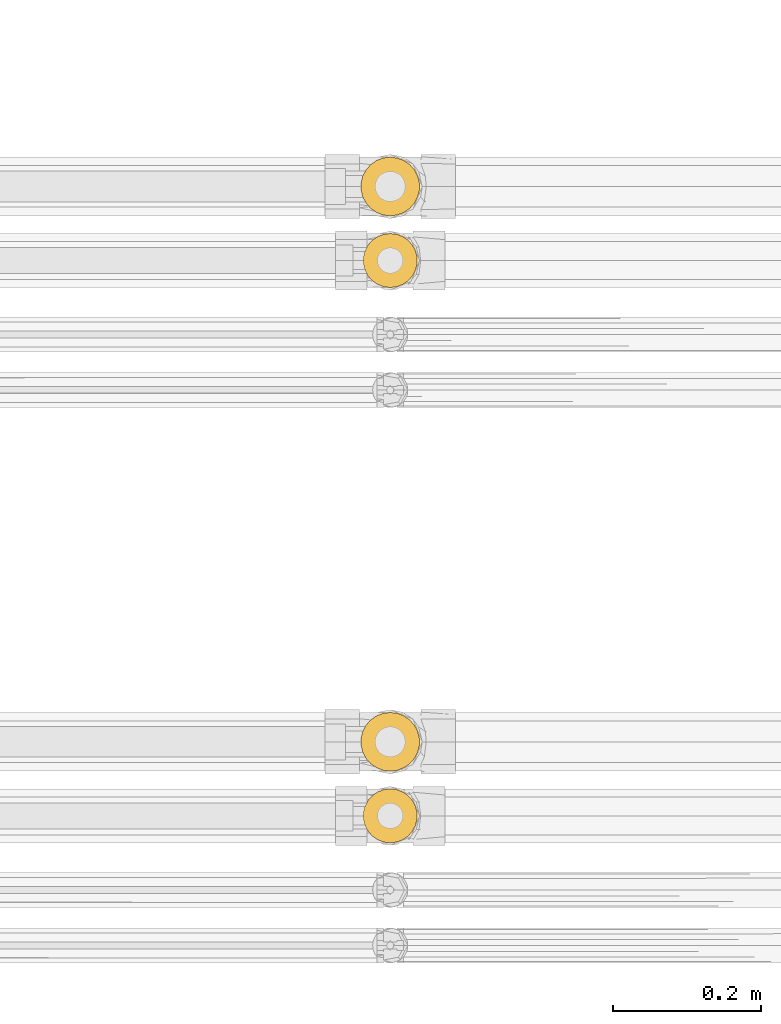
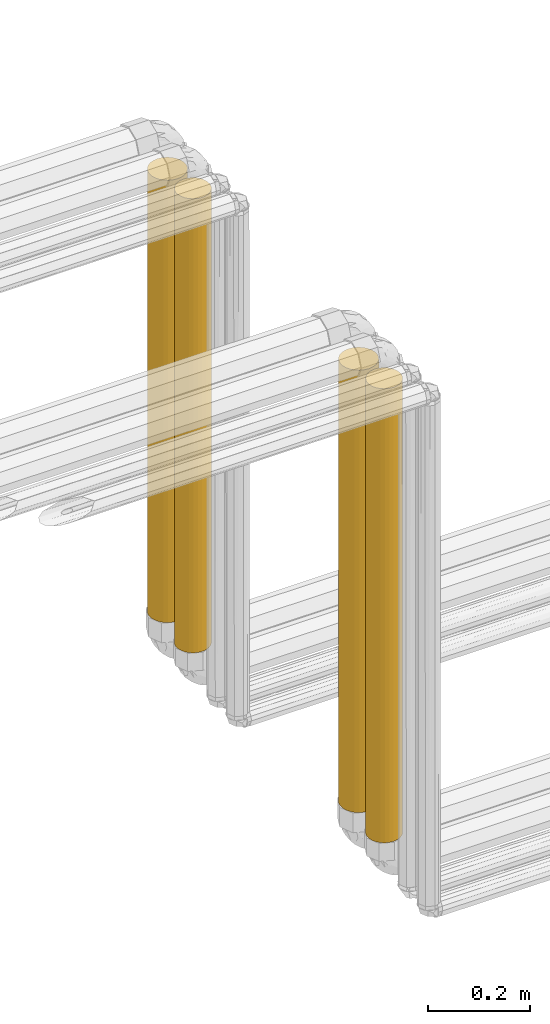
# One storey, part 47 of 652: 4 coverings.
"""IFC2X3 building model written with IfcOpenShell, lengths in millimetres."""

from ifc_helpers import new_model, entity, si_unit, converted_unit, direction, frame, frame_2d, origin, origin_2d_with_axis, place, context, subcontext, project, spatial, circle, extrude, material, type_object, element, save


model = new_model("IFC2X3")

# Units and contexts
model_context = context("Model", 3, precision=0.01, world=frame((0.0, 0.0, 308426.39999999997)), true_north=direction((6.123233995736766e-17, 1.0)))
plan_context = context("Plan", 3, precision=0.01, world=frame((0.0, 0.0, 308426.39999999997)), true_north=direction((6.123233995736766e-17, 1.0)))
body_context = subcontext(model_context, "Body", "Model", "MODEL_VIEW")
ifc_project = project(units=[si_unit("LENGTHUNIT", "METRE", prefix="MILLI"), si_unit("AREAUNIT", "SQUARE_METRE"), si_unit("VOLUMEUNIT", "CUBIC_METRE"), converted_unit("PLANEANGLEUNIT", "DEGREE", entity("IfcPlaneAngleMeasure", 0.017453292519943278), si_unit("PLANEANGLEUNIT", "RADIAN"), dimensions=[0, 0, 0, 0, 0, 0, 0])], contexts=[model_context, plan_context])

# Site, building, storey
site_placement = place(None, origin())
site = spatial("IfcSite", under=ifc_project, at=site_placement, Name="Default", CompositionType="ELEMENT")
building_placement = place(site_placement, origin())
building = spatial("IfcBuilding", under=site, at=building_placement, CompositionType="ELEMENT")
storey_placement = place(building_placement, frame((0.0, 0.0, 1730.6999999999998)))
storey = spatial("IfcBuildingStorey", under=building, at=storey_placement, Name="EG_Produktion_FFB", CompositionType="ELEMENT", Elevation=1730.6999999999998)

# Coverings
ifc_material = material(Name="Dämmung - Armaflex-Schlauch")
covering_type = type_object("IfcCoveringType", Name="Rohrdämmung außen:Armaflex-Schlauch", PredefinedType="INSULATION")
covering_1_placement = place(storey_placement, origin())
element("IfcCovering", 1, at=covering_1_placement, inside=storey, type_object=covering_type, material=ifc_material, Name="Rohrdämmung außen:Armaflex-Schlauch", ObjectType="Rohrdämmung außen:Armaflex-Schlauch", PredefinedType="INSULATION", context=body_context, shape_type="SweptSolid", body=[
    extrude(circle(Radius=36.4625, at=origin_2d_with_axis()), frame((69500.0, 40775.0, 2639.0371746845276), z_axis=(0.0, 0.0, 1.0), x_axis=(0.0, -1.0, 0.0)), (0.0, 0.0, 1.0), 1086.87857531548),
])
covering_2_placement = place(storey_placement, origin())
element("IfcCovering", 2, at=covering_2_placement, inside=storey, type_object=covering_type, material=ifc_material, Name="Rohrdämmung außen:Armaflex-Schlauch", ObjectType="Rohrdämmung außen:Armaflex-Schlauch", PredefinedType="INSULATION", context=body_context, shape_type="SweptSolid", body=[
    extrude(circle(Radius=36.4625, at=origin_2d_with_axis()), frame((69500.0, 41524.998449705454, 2639.0371746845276), z_axis=(0.0, 0.0, 1.0), x_axis=(0.0, -1.0, 0.0)), (0.0, 0.0, 1.0), 1086.8785753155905),
])
covering_3_placement = place(storey_placement, origin())
element("IfcCovering", 3, at=covering_3_placement, inside=storey, type_object=covering_type, material=ifc_material, Name="Rohrdämmung außen:Armaflex-Schlauch", ObjectType="Rohrdämmung außen:Armaflex-Schlauch", PredefinedType="INSULATION", context=body_context, shape_type="SweptSolid", body=[
    extrude(circle(Radius=39.63750000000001, at=origin_2d_with_axis()), frame((69500.0, 40875.0, 2653.0706746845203), z_axis=(0.0, 0.0, 1.0), x_axis=(0.0, 1.0, 0.0)), (0.0, 0.0, 1.0), 1058.811575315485),
])
covering_4_placement = place(storey_placement, origin())
element("IfcCovering", 4, at=covering_4_placement, inside=storey, type_object=covering_type, material=ifc_material, Name="Rohrdämmung außen:Armaflex-Schlauch", ObjectType="Rohrdämmung außen:Armaflex-Schlauch", PredefinedType="INSULATION", context=body_context, shape_type="SweptSolid", body=[
    extrude(circle(Radius=39.63750000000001, at=frame_2d((0.0, -8.662937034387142e-12), x_axis=(1.0, 0.0))), frame((69500.0, 41624.99844970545, 2653.070674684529), z_axis=(0.0, 0.0, 1.0), x_axis=(0.0, 1.0, 0.0)), (0.0, 0.0, 1.0), 1058.8115753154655),
])

save(model, "model.ifc")
